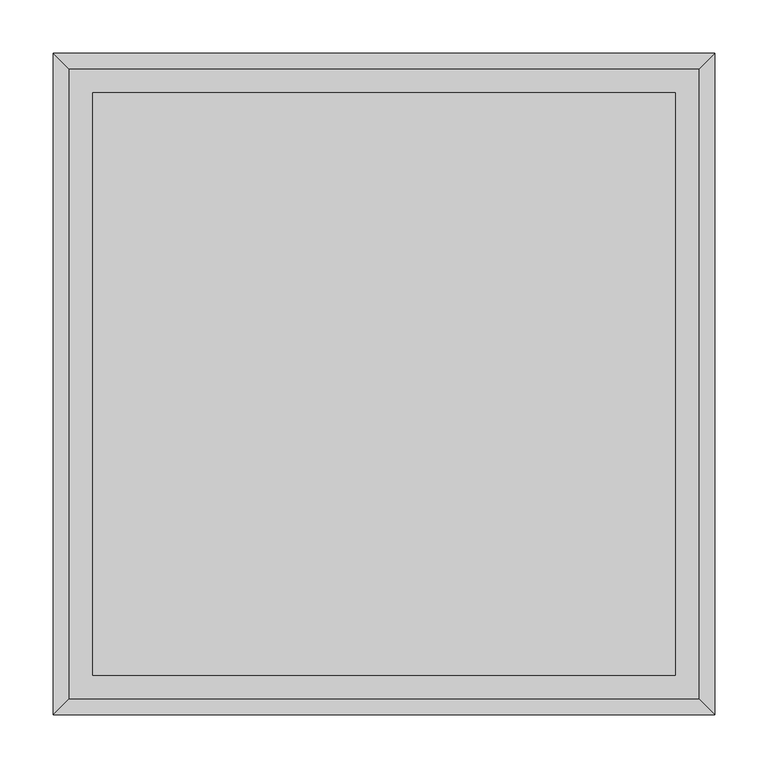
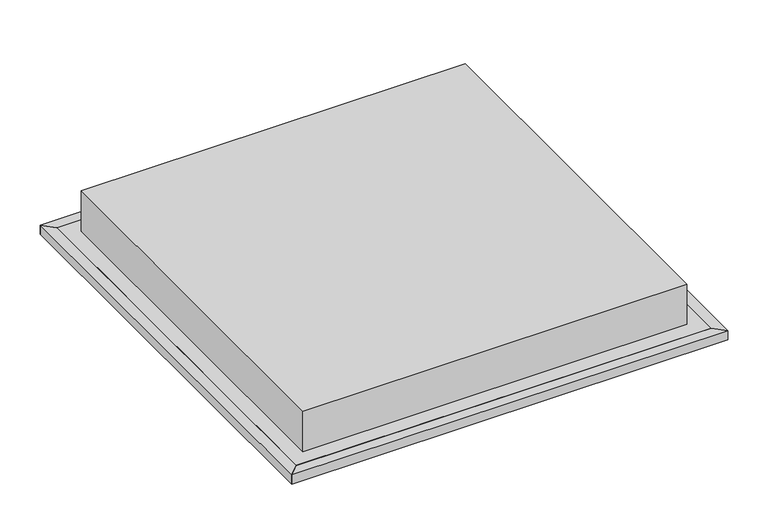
"""IFC4 building model written with IfcOpenShell, lengths in millimetres: light fixture geometry, OWA Lifetime plus LED : 625x625x75 micro prismatic IP40."""

from ifc_helpers import new_model, si_unit, frame, origin, place, context, project, spatial, polyline, outline, extrude, source, transform, mapped, element, save


def light_fixture_57ddc7c2(model_context):
    return source(origin(), model_context, "Body", "SweptSolid", [
        extrude(outline(polyline([(-296.0, 296.0), (296.0, 296.0), (296.0, -296.0), (-296.0, -296.0), (-296.0, 296.0)]), holes=[polyline([(274.0, 274.0), (-274.0, 274.0), (-274.0, -274.0), (274.0, -274.0), (274.0, 274.0)])]), frame((0.0, 0.0, 4000.0), z_axis=(0.0, 0.0, 1.0), x_axis=(1.0, 0.0, 0.0)), (0.0, 0.0, 1.0), 14.0),
        extrude(outline(polyline([(-311.0, -311.0), (-296.0, -296.0), (296.0, -296.0), (311.0, -311.0), (-311.0, -311.0)])), frame((0.0, 0.0, 4000.0), z_axis=(0.0, 0.0, 1.0), x_axis=(1.0, 0.0, 0.0)), (0.0, 0.0, 1.0), 14.0),
        extrude(outline(polyline([(-311.0, 311.0), (311.0, 311.0), (296.0, 296.0), (-296.0, 296.0), (-311.0, 311.0)])), frame((0.0, 0.0, 4000.0), z_axis=(0.0, 0.0, 1.0), x_axis=(1.0, 0.0, 0.0)), (0.0, 0.0, 1.0), 14.0),
        extrude(outline(polyline([(274.0, 274.0), (274.0, -274.0), (-274.0, -274.0), (-274.0, 274.0), (274.0, 274.0)])), frame((0.0, 0.0, 4000.0), z_axis=(0.0, 0.0, 1.0), x_axis=(1.0, 0.0, 0.0)), (0.0, 0.0, 1.0), 75.0),
        extrude(outline(polyline([(311.0, -311.0), (296.0, -296.0), (296.0, 296.0), (311.0, 311.0), (311.0, -311.0)])), frame((0.0, 0.0, 4000.0), z_axis=(0.0, 0.0, 1.0), x_axis=(1.0, 0.0, 0.0)), (0.0, 0.0, 1.0), 14.0),
        extrude(outline(polyline([(-311.0, -311.0), (-311.0, 311.0), (-296.0, 296.0), (-296.0, -296.0), (-311.0, -311.0)])), frame((0.0, 0.0, 4000.0), z_axis=(0.0, 0.0, 1.0), x_axis=(1.0, 0.0, 0.0)), (0.0, 0.0, 1.0), 14.0),
    ])


if __name__ == "__main__":
    model = new_model("IFC4")
    model_context = context("Model", 3, world=origin())
    ifc_project = project(units=[si_unit("LENGTHUNIT", "METRE", prefix="MILLI")], contexts=[model_context])
    site = spatial("IfcSite", under=ifc_project)
    building = spatial("IfcBuilding", under=site)
    placement = place(None, origin())
    light_fixture_shape = light_fixture_57ddc7c2(model_context)
    element("IfcLightFixture", 1, ObjectType="OWA Lifetime plus LED : 625x625x75 micro prismatic IP40", at=placement, inside=building, context=model_context, shape_type="MappedRepresentation", body=[
        mapped(light_fixture_shape, transform((0.0, 0.0, 0.0), x_axis=(1.0, 0.0, 0.0), y_axis=(0.0, 1.0, 0.0), z_axis=(0.0, 0.0, 1.0))),
    ])
    save(model, "model.ifc")
